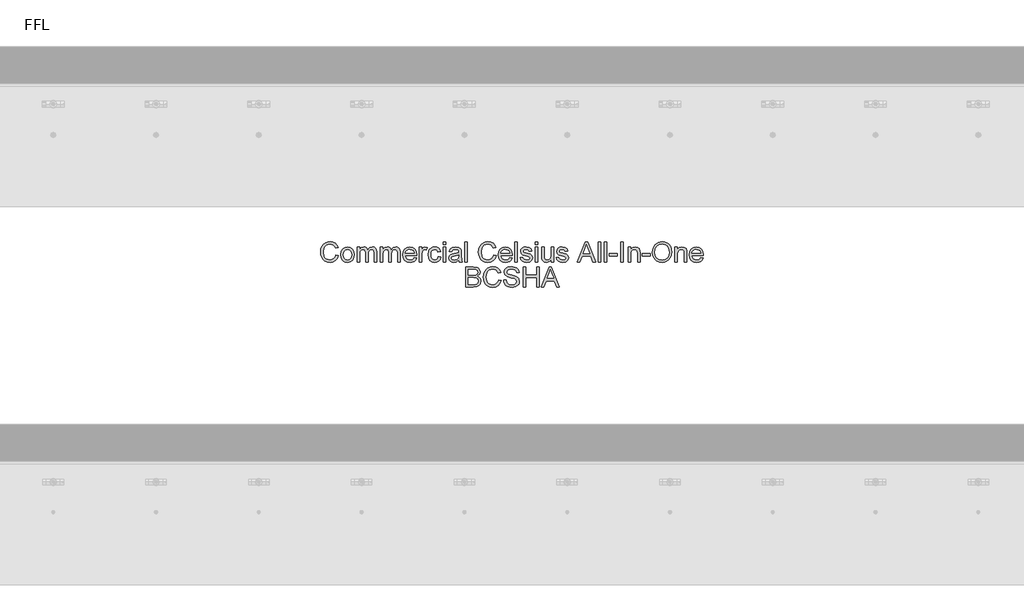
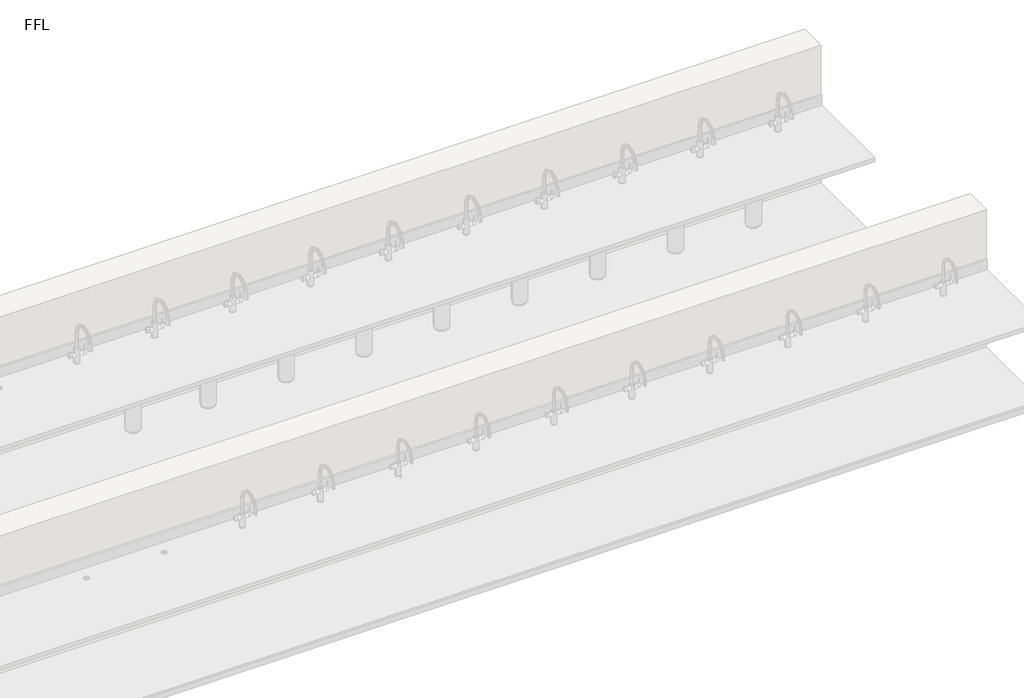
# One storey, part 9 of 9: 1 proxy.
"""IFC4 building model written with IfcOpenShell, lengths in millimetres."""

import ifcopenshell
import ifcopenshell.guid

model = None  # the IFC model being written
_history = None  # IfcOwnerHistory: only IFC2X3 demands one
_inside = {}  # id of a spatial element -> (the spatial element, [elements in it])
_under = {}  # id of a project, library or spatial element -> (it, [spatial elements below it])
_declared = {}  # id of a project -> (the project, [libraries it declares])
_typed = {}  # id of a type object -> (the type object, [elements of that type])
_made_of = {}  # id of a material, layer set ... -> (it, [elements and type objects made of it])


def new_model(schema):
    """Start an empty IFC model of exactly this schema.

    Asked for "IFC4X3", IfcOpenShell would pick the latest addendum, in which some entities
    have other attributes; the version numbers below select the first issue.
    IFC2X3 requires an IfcOwnerHistory on every rooted entity: one is made here for all.
    """
    global model, _history
    if schema == "IFC4X3":
        model = ifcopenshell.file(schema_version=(4, 3, 0, 0))
    else:
        model = ifcopenshell.file(schema=schema)
    _inside.clear()
    _under.clear()
    _declared.clear()
    _typed.clear()
    _made_of.clear()
    _history = None
    if model.schema == "IFC2X3":
        org = make("IfcOrganization", Name="unknown")
        user = make(
            "IfcPersonAndOrganization",
            ThePerson=make("IfcPerson", FamilyName="unknown"),
            TheOrganization=org,
        )
        app = make(
            "IfcApplication",
            ApplicationDeveloper=org,
            Version="unknown",
            ApplicationFullName="unknown",
            ApplicationIdentifier="unknown",
        )
        _history = make(
            "IfcOwnerHistory",
            OwningUser=user,
            OwningApplication=app,
            ChangeAction="ADDED",
            CreationDate=0,
        )
    return model


def make(cls, **values):
    """One entity of the class cls with the attributes given. An attribute that is None is left unset."""
    return model.create_entity(
        cls, **{name: value for name, value in values.items() if value is not None}
    )


def rooted(cls, **values):
    """An entity with a GlobalId (a new one), such as an element, a storey or a relation."""
    return make(cls, GlobalId=ifcopenshell.guid.new(), OwnerHistory=_history, **values)


def si_unit(unit_type, name, prefix=None):
    """IfcSIUnit, for example si_unit("LENGTHUNIT", "METRE", prefix="MILLI")."""
    return make("IfcSIUnit", UnitType=unit_type, Prefix=prefix, Name=name)


def assignment(units):
    """IfcUnitAssignment: the units of a project."""
    return None if units is None else make("IfcUnitAssignment", Units=units)


def point(xyz):
    """IfcCartesianPoint."""
    return None if xyz is None else make("IfcCartesianPoint", Coordinates=xyz)


def direction(xyz):
    """IfcDirection."""
    return None if xyz is None else make("IfcDirection", DirectionRatios=xyz)


def frame(location, z_axis=None, x_axis=None):
    """IfcAxis2Placement3D, a coordinate frame: its origin and axes. An axis left out is left unset."""
    return make(
        "IfcAxis2Placement3D",
        Location=point(location),
        Axis=direction(z_axis),
        RefDirection=direction(x_axis),
    )


def origin():
    """The frame at (0, 0, 0) with its axes left unset."""
    return frame((0.0, 0.0, 0.0))


def origin_with_axes():
    """The frame at (0, 0, 0) with the z axis (0, 0, 1) and the x axis (1, 0, 0) written out."""
    return frame((0.0, 0.0, 0.0), z_axis=(0.0, 0.0, 1.0), x_axis=(1.0, 0.0, 0.0))


def place(relative_to, where):
    """IfcLocalPlacement: puts the frame where relative to a parent placement (None: the world)."""
    return make(
        "IfcLocalPlacement", PlacementRelTo=relative_to, RelativePlacement=where
    )


def context(
    kind, dimensions, precision=None, world=None, true_north=None, identifier=None
):
    """IfcGeometricRepresentationContext, for example the 3D "Model" context."""
    return make(
        "IfcGeometricRepresentationContext",
        ContextIdentifier=identifier,
        ContextType=kind,
        CoordinateSpaceDimension=dimensions,
        Precision=precision,
        WorldCoordinateSystem=world,
        TrueNorth=true_north,
    )


def project(units=None, contexts=None):
    """IfcProject with its units and contexts."""
    return rooted(
        "IfcProject",
        Name="project",
        RepresentationContexts=contexts,
        UnitsInContext=assignment(units),
    )


def spatial(cls, under=None, at=None, **own):
    """A site, building, storey or space (cls), placed at a placement, below another one or the project."""
    s = rooted(cls, ObjectPlacement=at, **own)
    if under is not None:
        _under.setdefault(under.id(), (under, []))[1].append(s)
    return s


def polyline(points):
    """IfcPolyline through the points."""
    return make("IfcPolyline", Points=[point(p) for p in points])


def outline(outer, holes=None, kind="AREA"):
    """IfcArbitraryClosedProfileDef: a profile drawn as a closed curve; with holes, ...WithVoids."""
    if holes is None:
        return make("IfcArbitraryClosedProfileDef", ProfileType=kind, OuterCurve=outer)
    return make(
        "IfcArbitraryProfileDefWithVoids",
        ProfileType=kind,
        OuterCurve=outer,
        InnerCurves=holes,
    )


def extrude(swept, where, along, depth):
    """IfcExtrudedAreaSolid: the profile swept, set in the frame where, extruded along a direction by depth."""
    return make(
        "IfcExtrudedAreaSolid",
        SweptArea=swept,
        Position=where,
        ExtrudedDirection=direction(along),
        Depth=depth,
    )


def shape(context_of_items, identifier, shape_type, items):
    """IfcShapeRepresentation: the items that make up one representation, for example the "Body"."""
    return make(
        "IfcShapeRepresentation",
        ContextOfItems=context_of_items,
        RepresentationIdentifier=identifier,
        RepresentationType=shape_type,
        Items=items,
    )


def made_of(thing, what):
    """Note that an element or type object is made of a material, layer set ...; save() writes the relation."""
    if what is not None:
        _made_of.setdefault(what.id(), (what, []))[1].append(thing)
    return thing


def element(
    cls,
    number,
    at=None,
    inside=None,
    cuts=None,
    type_object=None,
    material=None,
    context=None,
    identifier="Body",
    shape_type=None,
    held_by="IfcProductDefinitionShape",
    body=None,
    shapes=None,
    **own,
):
    """One element of the class cls, such as IfcWall. Its Tag is "e" and its number.

    at: its placement. inside: the storey or other place that contains it. cuts: it is an
    opening in that element (IfcRelVoidsElement). A single representation is given by context,
    identifier, shape_type and body (its items); several are given by shapes. held_by: the class
    of the entity that holds the representations. save() writes the other relations.
    """
    e = rooted(cls, Tag="e%d" % number, ObjectPlacement=at, **own)
    if body is not None:
        shapes = [shape(context, identifier, shape_type, body)]
    if shapes is not None:
        e.Representation = make(held_by, Representations=shapes)
    if inside is not None:
        _inside.setdefault(inside.id(), (inside, []))[1].append(e)
    if cuts is not None:
        rooted(
            "IfcRelVoidsElement", RelatingBuildingElement=cuts, RelatedOpeningElement=e
        )
    if type_object is not None:
        _typed.setdefault(type_object.id(), (type_object, []))[1].append(e)
    return made_of(e, material)


def aggregate(whole, parts):
    """IfcRelAggregates: a whole, such as a stair, and the parts it consists of."""
    return rooted("IfcRelAggregates", RelatingObject=whole, RelatedObjects=parts)


def save(model, path):
    """Write the relations noted so far, then the file.

    IfcRelAggregates (storeys below a building ...), IfcRelContainedInSpatialStructure (elements
    in a storey), IfcRelDefinesByType, IfcRelAssociatesMaterial and IfcRelDeclares: one each for
    every whole, place, type object, material and project.
    """
    for whole, parts in _under.values():
        aggregate(whole, parts)
    for where, things in _inside.values():
        rooted(
            "IfcRelContainedInSpatialStructure",
            RelatedElements=things,
            RelatingStructure=where,
        )
    for kind, things in _typed.values():
        rooted("IfcRelDefinesByType", RelatedObjects=things, RelatingType=kind)
    for what, things in _made_of.values():
        rooted("IfcRelAssociatesMaterial", RelatedObjects=things, RelatingMaterial=what)
    for by, libraries in _declared.values():
        rooted("IfcRelDeclares", RelatingContext=by, RelatedDefinitions=libraries)
    model.write(path)


model = new_model("IFC4")

# Units and contexts
model_context = context("Model", 3, world=origin())
ifc_project = project(units=[si_unit("LENGTHUNIT", "METRE", prefix="MILLI")], contexts=[model_context])

# Site, building, storey
site = spatial("IfcSite", under=ifc_project)
building = spatial("IfcBuilding", under=site)
storey = spatial("IfcBuildingStorey", under=building, Name="FFL", Elevation=0.0)

# Proxy
placement = place(None, origin())
element("IfcBuildingElementProxy", 1, Name="150mm Arial", ObjectType="150mm Arial", at=placement, inside=storey, context=model_context, shape_type="SweptSolid", body=[
    extrude(outline(polyline([(6342.1877841, 6596.3018309), (6360.6493225, 6591.5422155), (6352.1306927, 6570.0292948), (6338.7623033, 6554.3126482), (6321.2022071, 6544.698766), (6300.1084571, 6541.4941386), (6278.6946951, 6543.9190184), (6261.688986, 6551.1936578), (6248.6541302, 6563.065653), (6239.1529283, 6579.2826001), (6233.352147, 6598.3481049), (6231.4185533, 6618.7657732), (6233.6045509, 6640.3012299), (6240.1625437, 6658.8979847), (6250.7499836, 6673.9655929), (6265.0243225, 6684.9136097), (6281.9534091, 6691.5797756), (6300.5050917, 6693.8018309), (6320.7469788, 6690.9262299), (6337.4822552, 6682.299427), (6350.1880845, 6668.4532732), (6358.3416302, 6649.9196193), (6339.8800917, 6645.5205809), (6333.4798514, 6658.9836217), (6324.735861, 6668.2188982), (6313.5399475, 6673.5599439), (6299.7839379, 6675.3402924), (6283.9275677, 6673.3661338), (6270.9017264, 6667.4436578), (6261.0174115, 6658.1948597), (6254.5856206, 6646.2417347), (6249.8800917, 6618.8018309), (6255.4510052, 6586.9989463), (6262.5723994, 6575.1224439), (6272.7947552, 6566.6804367), (6285.0498634, 6561.6368669), (6298.2695148, 6559.955677), (6313.6796711, 6562.2453405), (6326.5207167, 6569.1143309), (6336.2157288, 6580.4905328), (6342.1877841, 6596.3018309)])), origin_with_axes(), (0.0, 0.0, 1.0), 5.0),
    extrude(outline(polyline([(6379.110861, 6598.0326001), (6383.1042504, 6624.1834415), (6395.0844187, 6642.5638501), (6409.8861014, 6651.5692588), (6427.6084571, 6654.5710617), (6447.0029884, 6650.9157131), (6462.4942744, 6639.9496674), (6472.649022, 6622.5383092), (6476.0339379, 6599.5470232), (6474.5375437, 6580.8961818), (6470.048361, 6566.6984655), (6462.697099, 6556.0659535), (6452.6144667, 6548.1107251), (6440.6388057, 6543.1482852), (6427.6084571, 6541.4941386), (6407.9795509, 6545.1359655), (6392.5062937, 6556.0614463), (6382.4597191, 6573.8378886), (6379.110861, 6598.0326001)]), holes=[polyline([(6397.5723994, 6598.0686578), (6399.7088177, 6581.3604246), (6406.1180725, 6569.456879), (6415.7635052, 6562.3309775), (6427.6084571, 6559.955677), (6439.3993225, 6562.3444992), (6449.0267264, 6569.5109655), (6455.4359812, 6581.5722636), (6457.5723994, 6598.6455809), (6455.4224595, 6614.8670352), (6448.9726398, 6626.6083213), (6439.3317143, 6633.7342227), (6427.6084571, 6636.1095232), (6415.7635052, 6633.7432371), (6406.1180725, 6626.644379), (6399.7088177, 6614.7678766), (6397.5723994, 6598.0686578)])]), origin_with_axes(), (0.0, 0.0, 1.0), 5.0),
    extrude(outline(polyline([(6496.8031687, 6543.8018309), (6496.8031687, 6652.2633693), (6515.2647071, 6652.2633693), (6515.2647071, 6634.4148117), (6527.9570148, 6649.0362059), (6546.0219187, 6654.5710617), (6556.2893466, 6653.1603044), (6564.5195148, 6648.9280328), (6574.6877841, 6633.1167347), (6589.0928321, 6649.2074799), (6607.2839379, 6654.5710617), (6621.1616422, 6652.3399919), (6631.4245629, 6645.6467828), (6637.7662095, 6634.3111458), (6639.8800917, 6618.1527924), (6639.8800917, 6543.8018309), (6621.4185533, 6543.8018309), (6621.4185533, 6610.2201001), (6619.7058129, 6625.6347636), (6613.5038898, 6633.2249078), (6602.9570148, 6636.1095232), (6592.9555124, 6634.2615665), (6584.8019667, 6628.7176963), (6579.3797913, 6619.0993068), (6577.5723994, 6605.0277924), (6577.5723994, 6543.8018309), (6559.110861, 6543.8018309), (6559.110861, 6612.2753886), (6554.8380244, 6630.160004), (6549.1995028, 6634.6221434), (6540.829611, 6636.1095232), (6527.1637456, 6632.143177), (6518.0772071, 6620.5326001), (6515.2647071, 6598.5013501), (6515.2647071, 6543.8018309), (6496.8031687, 6543.8018309)])), origin_with_axes(), (0.0, 0.0, 1.0), 5.0),
    extrude(outline(polyline([(6667.5723994, 6543.8018309), (6667.5723994, 6652.2633693), (6686.0339379, 6652.2633693), (6686.0339379, 6634.4148117), (6698.7262456, 6649.0362059), (6716.7911494, 6654.5710617), (6727.0585773, 6653.1603044), (6735.2887456, 6648.9280328), (6745.4570148, 6633.1167347), (6759.8620629, 6649.2074799), (6778.0531687, 6654.5710617), (6791.930873, 6652.3399919), (6802.1937937, 6645.6467828), (6808.5354403, 6634.3111458), (6810.6493225, 6618.1527924), (6810.6493225, 6543.8018309), (6792.1877841, 6543.8018309), (6792.1877841, 6610.2201001), (6790.4750437, 6625.6347636), (6784.2731206, 6633.2249078), (6773.7262456, 6636.1095232), (6763.7247432, 6634.2615665), (6755.5711975, 6628.7176963), (6750.149022, 6619.0993068), (6748.3416302, 6605.0277924), (6748.3416302, 6543.8018309), (6729.8800917, 6543.8018309), (6729.8800917, 6612.2753886), (6725.6072552, 6630.160004), (6719.9687336, 6634.6221434), (6711.5988417, 6636.1095232), (6697.9329764, 6632.143177), (6688.8464379, 6620.5326001), (6686.0339379, 6598.5013501), (6686.0339379, 6543.8018309), (6667.5723994, 6543.8018309)])), origin_with_axes(), (0.0, 0.0, 1.0), 5.0),
    extrude(outline(polyline([(6914.2791302, 6576.1095232), (6932.3800917, 6573.8018309), (6925.8581566, 6560.1630088), (6915.4510052, 6549.9676963), (6901.3930124, 6543.612528), (6883.9185533, 6541.4941386), (6862.2568946, 6545.1494871), (6845.5892264, 6556.1155328), (6834.9612216, 6573.6801362), (6831.4185533, 6597.1311578), (6834.9972792, 6621.3709415), (6845.7334571, 6639.4989463), (6862.1757648, 6650.8030328), (6882.8728802, 6654.5710617), (6902.9254643, 6650.8120472), (6918.9486014, 6639.535004), (6929.4549115, 6621.4430568), (6932.9570148, 6597.2393309), (6932.8488417, 6592.2633693), (6849.8800917, 6592.2633693), (6853.0757047, 6578.4442588), (6860.4990821, 6568.285004), (6871.212724, 6562.0380088), (6884.2791302, 6559.955677), (6902.3800917, 6563.8138501), (6914.2791302, 6576.1095232)]), holes=[polyline([(6849.8800917, 6610.7249078), (6914.4954764, 6610.7249078), (6911.9984812, 6620.4785136), (6907.1036494, 6627.455677), (6896.3404283, 6633.9460617), (6882.8007648, 6636.1095232), (6870.3563538, 6634.3832612), (6860.0663898, 6629.2044751), (6852.9134451, 6621.1320592), (6849.8800917, 6610.7249078)])]), origin_with_axes(), (0.0, 0.0, 1.0), 5.0),
    extrude(outline(polyline([(6951.4185533, 6543.8018309), (6951.4185533, 6652.2633693), (6967.5723994, 6652.2633693), (6967.5723994, 6636.2176963), (6979.0387456, 6651.0013501), (6990.5772071, 6654.5710617), (7009.110861, 6648.8739463), (7002.9449956, 6632.3234655), (6989.9642264, 6636.1095232), (6979.5255244, 6632.4676963), (6972.8728802, 6622.3715424), (6969.8800917, 6600.8090424), (6969.8800917, 6543.8018309), (6951.4185533, 6543.8018309)])), origin_with_axes(), (0.0, 0.0, 1.0), 5.0),
    extrude(outline(polyline([(7089.8800917, 6583.0326001), (7108.3416302, 6580.7249078), (7103.1943946, 6564.3051362), (7093.5219187, 6551.8967828), (7080.2346591, 6544.0947996), (7064.2430725, 6541.4941386), (7044.6051518, 6545.1224439), (7029.2490821, 6556.0073597), (7019.337724, 6573.6711217), (7016.0339379, 6597.6359655), (7021.6769667, 6628.3030328), (7028.798361, 6639.8009294), (7038.876486, 6648.0085617), (7050.9332768, 6652.9304367), (7063.9906687, 6654.5710617), (7079.5901278, 6652.3174559), (7092.0615821, 6645.5566386), (7101.008397, 6634.6491867), (7106.0339379, 6619.955677), (7087.5723994, 6617.6479847), (7079.0086975, 6631.4761097), (7064.1348994, 6636.1095232), (7052.2043105, 6633.8288742), (7042.7346591, 6626.986927), (7036.555272, 6615.2140905), (7034.4954764, 6598.1407732), (7036.5101999, 6580.8375881), (7042.5543706, 6569.0241867), (7051.852748, 6562.2228044), (7063.6300917, 6559.955677), (7073.1898874, 6561.3709415), (7081.0279283, 6565.6167347), (7086.7295509, 6572.8012299), (7089.8800917, 6583.0326001)])), origin_with_axes(), (0.0, 0.0, 1.0), 5.0),
    extrude(outline(polyline([(7124.4954764, 6673.0326001), (7124.4954764, 6691.4941386), (7142.9570148, 6691.4941386), (7142.9570148, 6673.0326001), (7124.4954764, 6673.0326001)])), origin_with_axes(), (0.0, 0.0, 1.0), 5.0),
    extrude(outline(polyline([(7124.4954764, 6543.8018309), (7124.4954764, 6652.2633693), (7142.9570148, 6652.2633693), (7142.9570148, 6543.8018309), (7124.4954764, 6543.8018309)])), origin_with_axes(), (0.0, 0.0, 1.0), 5.0),
    extrude(outline(polyline([(7239.8800917, 6557.6479847), (7221.9774475, 6545.1359655), (7202.1998033, 6541.4941386), (7186.7716182, 6543.6846434), (7175.3909091, 6550.2561578), (7168.3731807, 6560.2351242), (7166.0339379, 6572.6479847), (7169.5675917, 6587.2513501), (7178.8524475, 6597.8523117), (7191.7791302, 6603.910004), (7207.7526879, 6606.6864463), (7239.7719187, 6613.0326001), (7239.8800917, 6617.143177), (7238.6090581, 6625.3823597), (7234.7959571, 6630.7729847), (7226.2683129, 6634.7753886), (7214.3873033, 6636.1095232), (7195.7094187, 6632.5578405), (7186.8031687, 6619.955677), (7168.3416302, 6622.2633693), (7176.3284091, 6640.2922155), (7192.4101398, 6650.8571193), (7216.767111, 6654.5710617), (7239.1409091, 6651.2898117), (7251.7791302, 6643.050629), (7257.4401879, 6630.5205809), (7258.3416302, 6614.3667347), (7258.3416302, 6591.3979847), (7259.2791302, 6559.3246674), (7262.9570148, 6543.8018309), (7244.4954764, 6543.8018309), (7239.8800917, 6557.6479847)]), holes=[polyline([(7239.8800917, 6594.5710617), (7210.0964379, 6588.910004), (7194.2130244, 6585.9172155), (7187.0195148, 6581.049427), (7184.4954764, 6573.9460617), (7189.9942744, 6563.9580809), (7206.1300917, 6559.955677), (7224.8079764, 6564.3727443), (7236.8512456, 6575.0638501), (7239.7719187, 6589.3426963), (7239.8800917, 6594.5710617)])]), origin_with_axes(), (0.0, 0.0, 1.0), 5.0),
    extrude(outline(polyline([(7283.7262456, 6543.8018309), (7283.7262456, 6691.4941386), (7302.1877841, 6691.4941386), (7302.1877841, 6543.8018309), (7283.7262456, 6543.8018309)])), origin_with_axes(), (0.0, 0.0, 1.0), 5.0),
    extrude(outline(polyline([(7493.7262456, 6596.3018309), (7512.1877841, 6591.5422155), (7503.6691542, 6570.0292948), (7490.3007648, 6554.3126482), (7472.7406687, 6544.698766), (7451.6469187, 6541.4941386), (7430.2331566, 6543.9190184), (7413.2274475, 6551.1936578), (7400.1925917, 6563.065653), (7390.6913898, 6579.2826001), (7384.8906086, 6598.3481049), (7382.9570148, 6618.7657732), (7385.1430124, 6640.3012299), (7391.7010052, 6658.8979847), (7402.2884451, 6673.9655929), (7416.5627841, 6684.9136097), (7433.4918706, 6691.5797756), (7452.0435533, 6693.8018309), (7472.2854403, 6690.9262299), (7489.0207167, 6682.299427), (7501.7265461, 6668.4532732), (7509.8800917, 6649.9196193), (7491.4185533, 6645.5205809), (7485.0183129, 6658.9836217), (7476.2743225, 6668.2188982), (7465.0784091, 6673.5599439), (7451.3223994, 6675.3402924), (7435.4660292, 6673.3661338), (7422.4401879, 6667.4436578), (7412.555873, 6658.1948597), (7406.1240821, 6646.2417347), (7401.4185533, 6618.8018309), (7406.9894667, 6586.9989463), (7414.110861, 6575.1224439), (7424.3332167, 6566.6804367), (7436.5883249, 6561.6368669), (7449.8079764, 6559.955677), (7465.2181326, 6562.2453405), (7478.0591783, 6569.1143309), (7487.7541903, 6580.4905328), (7493.7262456, 6596.3018309)])), origin_with_axes(), (0.0, 0.0, 1.0), 5.0),
    extrude(outline(polyline([(7611.2022071, 6576.1095232), (7629.3031687, 6573.8018309), (7622.7812336, 6560.1630088), (7612.3740821, 6549.9676963), (7598.3160893, 6543.612528), (7580.8416302, 6541.4941386), (7559.1799716, 6545.1494871), (7542.5123033, 6556.1155328), (7531.8842985, 6573.6801362), (7528.3416302, 6597.1311578), (7531.9203562, 6621.3709415), (7542.6565341, 6639.4989463), (7559.0988417, 6650.8030328), (7579.7959571, 6654.5710617), (7599.8485413, 6650.8120472), (7615.8716783, 6639.535004), (7626.3779884, 6621.4430568), (7629.8800917, 6597.2393309), (7629.7719187, 6592.2633693), (7546.8031687, 6592.2633693), (7549.9987816, 6578.4442588), (7557.4221591, 6568.285004), (7568.1358009, 6562.0380088), (7581.2022071, 6559.955677), (7599.3031687, 6563.8138501), (7611.2022071, 6576.1095232)]), holes=[polyline([(7546.8031687, 6610.7249078), (7611.4185533, 6610.7249078), (7608.9215581, 6620.4785136), (7604.0267264, 6627.455677), (7593.2635052, 6633.9460617), (7579.7238417, 6636.1095232), (7567.2794307, 6634.3832612), (7556.9894667, 6629.2044751), (7549.836522, 6621.1320592), (7546.8031687, 6610.7249078)])]), origin_with_axes(), (0.0, 0.0, 1.0), 5.0),
    extrude(outline(polyline([(7648.3416302, 6543.8018309), (7648.3416302, 6691.4941386), (7666.8031687, 6691.4941386), (7666.8031687, 6543.8018309), (7648.3416302, 6543.8018309)])), origin_with_axes(), (0.0, 0.0, 1.0), 5.0),
    extrude(outline(polyline([(7687.5723994, 6576.1095232), (7706.0339379, 6578.4172155), (7708.9455966, 6570.5205809), (7714.579611, 6564.7152924), (7734.1589379, 6559.955677), (7752.9810533, 6564.3186578), (7759.110861, 6574.5590424), (7752.9449956, 6582.8523117), (7733.9425917, 6588.1167347), (7706.142111, 6597.1491867), (7694.0086975, 6607.6960617), (7689.8800917, 6622.5878886), (7693.1973994, 6636.3438982), (7702.2478802, 6646.8547155), (7713.9846591, 6652.3174559), (7729.8680725, 6654.5710617), (7752.3320148, 6650.9472636), (7766.610861, 6641.1395713), (7772.9570148, 6624.5710617), (7754.4954764, 6622.2633693), (7747.5543706, 6632.4496674), (7731.3103802, 6636.1095232), (7713.642111, 6632.611927), (7708.3416302, 6624.4628886), (7710.5411494, 6619.0902924), (7717.4281687, 6615.0157732), (7733.329611, 6611.0854847), (7760.4269667, 6602.3955809), (7773.0111014, 6592.5518309), (7777.5723994, 6576.5061578), (7772.2178321, 6558.8378886), (7756.767111, 6546.019379), (7733.9065341, 6541.4941386), (7715.2917504, 6543.675629), (7701.7070148, 6550.2201001), (7692.6385052, 6561.0554367), (7687.5723994, 6576.1095232)])), origin_with_axes(), (0.0, 0.0, 1.0), 5.0),
    extrude(outline(polyline([(7798.3416302, 6543.8018309), (7798.3416302, 6652.2633693), (7816.8031687, 6652.2633693), (7816.8031687, 6543.8018309), (7798.3416302, 6543.8018309)])), origin_with_axes(), (0.0, 0.0, 1.0), 5.0),
    extrude(outline(polyline([(7798.3416302, 6673.0326001), (7798.3416302, 6691.4941386), (7816.8031687, 6691.4941386), (7816.8031687, 6673.0326001), (7798.3416302, 6673.0326001)])), origin_with_axes(), (0.0, 0.0, 1.0), 5.0),
    extrude(outline(polyline([(7913.7262456, 6543.8018309), (7913.7262456, 6562.4436578), (7899.267111, 6546.7315184), (7880.4089379, 6541.4941386), (7863.0471591, 6545.1720232), (7851.0760052, 6554.4027924), (7845.5772071, 6567.9965424), (7844.4954764, 6585.160004), (7844.4954764, 6652.2633693), (7862.9570148, 6652.2633693), (7862.9570148, 6593.8499078), (7864.0748033, 6575.0277924), (7871.376486, 6563.9761097), (7885.1324956, 6559.955677), (7900.5471591, 6564.066254), (7910.7334571, 6575.2621674), (7913.7262456, 6595.8330809), (7913.7262456, 6652.2633693), (7932.1877841, 6652.2633693), (7932.1877841, 6543.8018309), (7913.7262456, 6543.8018309)])), origin_with_axes(), (0.0, 0.0, 1.0), 5.0),
    extrude(outline(polyline([(7950.6493225, 6576.1095232), (7969.110861, 6578.4172155), (7972.0225196, 6570.5205809), (7977.6565341, 6564.7152924), (7997.235861, 6559.955677), (8016.0579764, 6564.3186578), (8022.1877841, 6574.5590424), (8016.0219187, 6582.8523117), (7997.0195148, 6588.1167347), (7969.2190341, 6597.1491867), (7957.0856206, 6607.6960617), (7952.9570148, 6622.5878886), (7956.2743225, 6636.3438982), (7965.3248033, 6646.8547155), (7977.0615821, 6652.3174559), (7992.9449956, 6654.5710617), (8015.4089379, 6650.9472636), (8029.6877841, 6641.1395713), (8036.0339379, 6624.5710617), (8017.5723994, 6622.2633693), (8010.6312937, 6632.4496674), (7994.3873033, 6636.1095232), (7976.7190341, 6632.611927), (7971.4185533, 6624.4628886), (7973.6180725, 6619.0902924), (7980.5050917, 6615.0157732), (7996.4065341, 6611.0854847), (8023.5038898, 6602.3955809), (8036.0880244, 6592.5518309), (8040.6493225, 6576.5061578), (8035.2947552, 6558.8378886), (8019.8440341, 6546.019379), (7996.9834571, 6541.4941386), (7978.3686735, 6543.675629), (7964.7839379, 6550.2201001), (7955.7154283, 6561.0554367), (7950.6493225, 6576.1095232)])), origin_with_axes(), (0.0, 0.0, 1.0), 5.0),
    extrude(outline(polyline([(8104.2190341, 6543.8018309), (8163.173361, 6691.4941386), (8178.8945148, 6691.4941386), (8237.8488417, 6543.8018309), (8218.3416302, 6543.8018309), (8201.4305725, 6589.955677), (8140.6012456, 6589.955677), (8123.7262456, 6543.8018309), (8104.2190341, 6543.8018309)]), holes=[polyline([(8147.3800917, 6608.4172155), (8194.6877841, 6608.4172155), (8181.3824956, 6644.7273117), (8171.0339379, 6673.0326001), (8161.8392264, 6647.9003886), (8147.3800917, 6608.4172155)])]), origin_with_axes(), (0.0, 0.0, 1.0), 5.0),
    extrude(outline(polyline([(8255.2647071, 6543.8018309), (8255.2647071, 6691.4941386), (8273.7262456, 6691.4941386), (8273.7262456, 6543.8018309), (8255.2647071, 6543.8018309)])), origin_with_axes(), (0.0, 0.0, 1.0), 5.0),
    extrude(outline(polyline([(8301.4185533, 6543.8018309), (8301.4185533, 6691.4941386), (8319.8800917, 6691.4941386), (8319.8800917, 6543.8018309), (8301.4185533, 6543.8018309)])), origin_with_axes(), (0.0, 0.0, 1.0), 5.0),
    extrude(outline(polyline([(8338.3416302, 6587.6479847), (8338.3416302, 6606.1095232), (8396.0339379, 6606.1095232), (8396.0339379, 6587.6479847), (8338.3416302, 6587.6479847)])), origin_with_axes(), (0.0, 0.0, 1.0), 5.0),
    extrude(outline(polyline([(8421.4185533, 6543.8018309), (8421.4185533, 6691.4941386), (8439.8800917, 6691.4941386), (8439.8800917, 6543.8018309), (8421.4185533, 6543.8018309)])), origin_with_axes(), (0.0, 0.0, 1.0), 5.0),
    extrude(outline(polyline([(8474.4954764, 6543.8018309), (8474.4954764, 6652.2633693), (8492.9570148, 6652.2633693), (8492.9570148, 6637.1191386), (8507.0736014, 6650.2080809), (8526.3464379, 6654.5710617), (8543.7803321, 6651.0554367), (8555.6793706, 6641.8246674), (8561.2142264, 6628.2489463), (8562.1877841, 6610.4003886), (8562.1877841, 6543.8018309), (8543.7262456, 6543.8018309), (8543.7262456, 6607.9124078), (8541.5988417, 6624.2465424), (8534.0808129, 6632.8823597), (8521.4065341, 6636.1095232), (8510.5937336, 6634.2976242), (8501.376486, 6628.861927), (8495.0618826, 6618.3601242), (8492.9570148, 6601.3499078), (8492.9570148, 6543.8018309), (8474.4954764, 6543.8018309)])), origin_with_axes(), (0.0, 0.0, 1.0), 5.0),
    extrude(outline(polyline([(8578.3416302, 6587.6479847), (8578.3416302, 6606.1095232), (8636.0339379, 6606.1095232), (8636.0339379, 6587.6479847), (8578.3416302, 6587.6479847)])), origin_with_axes(), (0.0, 0.0, 1.0), 5.0),
    extrude(outline(polyline([(8652.1877841, 6615.7008693), (8657.1096591, 6648.3601242), (8671.8752841, 6673.0686578), (8694.4203562, 6688.6185376), (8722.6805725, 6693.8018309), (8742.0525677, 6691.3679367), (8759.423361, 6684.066254), (8773.8464379, 6672.4106049), (8784.3752841, 6656.9148117), (8790.8115821, 6638.3270713), (8792.9570148, 6617.3955809), (8790.6989018, 6596.1846434), (8783.9245629, 6577.3354847), (8773.0080966, 6561.8126482), (8758.3236014, 6550.580677), (8741.1015461, 6543.7657732), (8722.5723994, 6541.4941386), (8702.9029283, 6544.0046554), (8685.4329764, 6551.5362059), (8671.0459571, 6563.4082011), (8660.6252841, 6578.940052), (8654.2971591, 6596.8111458), (8652.1877841, 6615.7008693)]), holes=[polyline([(8670.6493225, 6615.5205809), (8674.3407288, 6592.4166145), (8685.4149475, 6574.8114463), (8702.0600797, 6563.6696193), (8722.4642264, 6559.955677), (8743.165849, 6563.705677), (8759.8380244, 6574.955677), (8770.8311134, 6593.1017107), (8774.4954764, 6617.5398117), (8772.9269667, 6633.8829607), (8768.2214379, 6648.0085617), (8760.5005845, 6659.5605448), (8749.8861014, 6668.1828405), (8737.0811134, 6673.5509294), (8722.7887456, 6675.3402924), (8702.9299716, 6671.8922756), (8686.0459571, 6661.5482251), (8674.4984812, 6643.1452804), (8670.6493225, 6615.5205809)])]), origin_with_axes(), (0.0, 0.0, 1.0), 5.0),
    extrude(outline(polyline([(8816.0339379, 6543.8018309), (8816.0339379, 6652.2633693), (8834.4954764, 6652.2633693), (8834.4954764, 6637.1191386), (8848.6120629, 6650.2080809), (8867.8848994, 6654.5710617), (8885.3187937, 6651.0554367), (8897.2178321, 6641.8246674), (8902.7526879, 6628.2489463), (8903.7262456, 6610.4003886), (8903.7262456, 6543.8018309), (8885.2647071, 6543.8018309), (8885.2647071, 6607.9124078), (8883.1373033, 6624.2465424), (8875.6192744, 6632.8823597), (8862.9449956, 6636.1095232), (8852.1321951, 6634.2976242), (8842.9149475, 6628.861927), (8836.6003441, 6618.3601242), (8834.4954764, 6601.3499078), (8834.4954764, 6543.8018309), (8816.0339379, 6543.8018309)])), origin_with_axes(), (0.0, 0.0, 1.0), 5.0),
    extrude(outline(polyline([(9005.048361, 6576.1095232), (9023.1493225, 6573.8018309), (9016.6273874, 6560.1630088), (9006.220236, 6549.9676963), (8992.1622432, 6543.612528), (8974.6877841, 6541.4941386), (8953.0261254, 6545.1494871), (8936.3584571, 6556.1155328), (8925.7304523, 6573.6801362), (8922.1877841, 6597.1311578), (8925.76651, 6621.3709415), (8936.5026879, 6639.4989463), (8952.9449956, 6650.8030328), (8973.642111, 6654.5710617), (8993.6946951, 6650.8120472), (9009.7178321, 6639.535004), (9020.2241422, 6621.4430568), (9023.7262456, 6597.2393309), (9023.6180725, 6592.2633693), (8940.6493225, 6592.2633693), (8943.8449355, 6578.4442588), (8951.2683129, 6568.285004), (8961.9819547, 6562.0380088), (8975.048361, 6559.955677), (8993.1493225, 6563.8138501), (9005.048361, 6576.1095232)]), holes=[polyline([(8940.6493225, 6610.7249078), (9005.2647071, 6610.7249078), (9002.7677119, 6620.4785136), (8997.8728802, 6627.455677), (8987.1096591, 6633.9460617), (8973.5699956, 6636.1095232), (8961.1255845, 6634.3832612), (8950.8356206, 6629.2044751), (8943.6826759, 6621.1320592), (8940.6493225, 6610.7249078)])]), origin_with_axes(), (0.0, 0.0, 1.0), 5.0),
    extrude(outline(polyline([(7289.4954764, 6361.4941386), (7289.4954764, 6509.1864463), (7345.8536494, 6509.1864463), (7373.4558129, 6504.8414943), (7382.7316542, 6499.3291746), (7389.7538898, 6491.4821193), (7395.6493225, 6472.5878886), (7390.6913898, 6455.3342828), (7375.7094187, 6442.2633693), (7386.1706566, 6436.800629), (7393.9005244, 6428.4893309), (7398.6736615, 6417.8793549), (7400.2647071, 6405.5205809), (7395.9197552, 6385.6708213), (7385.1565341, 6371.5362059), (7369.0928321, 6364.0362059), (7345.4209571, 6361.4941386), (7289.4954764, 6361.4941386)]), holes=[polyline([(7307.9570148, 6449.1864463), (7341.6709571, 6449.1864463), (7361.3584571, 6450.7729847), (7373.2034091, 6457.6059174), (7377.1877841, 6469.6311578), (7373.4738417, 6481.674427), (7362.8368225, 6488.7958213), (7339.110861, 6490.7249078), (7307.9570148, 6490.7249078), (7307.9570148, 6449.1864463)]), polyline([(7307.9570148, 6379.955677), (7345.8175917, 6379.955677), (7359.5195148, 6380.6768309), (7371.1120629, 6384.6972636), (7378.7923514, 6392.9003886), (7381.8031687, 6405.3402924), (7378.2695148, 6419.691254), (7366.8211975, 6428.2549559), (7344.0147071, 6430.7249078), (7307.9570148, 6430.7249078), (7307.9570148, 6379.955677)])]), origin_with_axes(), (0.0, 0.0, 1.0), 5.0),
    extrude(outline(polyline([(7529.4954764, 6413.9941386), (7547.9570148, 6409.2345232), (7539.438385, 6387.7216025), (7526.0699956, 6372.0049559), (7508.5098994, 6362.3910737), (7487.4161494, 6359.1864463), (7466.0023874, 6361.6113261), (7448.9966783, 6368.8859655), (7435.9618225, 6380.7579607), (7426.4606206, 6396.9749078), (7420.6598393, 6416.0404126), (7418.7262456, 6436.4580809), (7420.9122432, 6457.9935376), (7427.470236, 6476.5902924), (7438.0576759, 6491.6579006), (7452.3320148, 6502.6059174), (7469.2611014, 6509.2720833), (7487.8127841, 6511.4941386), (7508.0546711, 6508.6185376), (7524.7899475, 6499.9917347), (7537.4957768, 6486.1455809), (7545.6493225, 6467.611927), (7527.1877841, 6463.2128886), (7520.7875437, 6476.6759294), (7512.0435533, 6485.9112059), (7500.8476398, 6491.2522516), (7487.0916302, 6493.0326001), (7471.23526, 6491.0584415), (7458.2094187, 6485.1359655), (7448.3251038, 6475.8871674), (7441.8933129, 6463.9340424), (7437.1877841, 6436.4941386), (7442.7586975, 6404.691254), (7449.8800917, 6392.8147516), (7460.1024475, 6384.3727443), (7472.3575557, 6379.3291746), (7485.5772071, 6377.6479847), (7500.9873634, 6379.9376482), (7513.8284091, 6386.8066386), (7523.5234211, 6398.1828405), (7529.4954764, 6413.9941386)])), origin_with_axes(), (0.0, 0.0, 1.0), 5.0),
    extrude(outline(polyline([(7566.4185533, 6412.2633693), (7584.8800917, 6412.2633693), (7590.829611, 6393.783802), (7605.360861, 6382.1011097), (7627.5002841, 6377.6479847), (7646.7911494, 6381.019379), (7659.2490821, 6390.2862059), (7663.3416302, 6402.6720232), (7660.2767264, 6414.1924559), (7647.7286494, 6422.5758693), (7620.8476398, 6429.6251482), (7591.9113417, 6438.7297155), (7576.2082167, 6452.4676963), (7571.0339379, 6470.8210617), (7572.633998, 6481.6338621), (7577.4341783, 6491.7164943), (7585.3082768, 6500.2621674), (7596.1300917, 6506.4640905), (7623.4978802, 6511.4941386), (7652.704611, 6506.2297155), (7663.9005244, 6499.7303165), (7672.1757648, 6490.7609655), (7677.4131446, 6479.8805568), (7679.4954764, 6467.6479847), (7661.0339379, 6467.6479847), (7657.6445148, 6478.6636097), (7650.5772071, 6486.6143309), (7639.5345389, 6491.4280328), (7624.2190341, 6493.0326001), (7608.5429523, 6491.4460617), (7597.7887456, 6486.6864463), (7591.5687937, 6479.6822395), (7589.4954764, 6471.361927), (7590.9648273, 6464.2675761), (7595.3728802, 6458.5614463), (7625.517111, 6448.2489463), (7658.1853802, 6438.9821193), (7668.7097191, 6432.284403), (7676.0519667, 6424.018177), (7681.8031687, 6403.1407732), (7680.149022, 6391.7600641), (7675.1865821, 6381.0554367), (7667.1186735, 6371.8426963), (7656.1481206, 6364.9376482), (7628.2214379, 6359.1864463), (7610.133998, 6360.736927), (7595.2466783, 6365.3883693), (7583.3882047, 6373.158802), (7574.3873033, 6384.066254), (7568.6090581, 6397.3535136), (7566.4185533, 6412.2633693)])), origin_with_axes(), (0.0, 0.0, 1.0), 5.0),
    extrude(outline(polyline([(7709.4954764, 6361.4941386), (7709.4954764, 6509.1864463), (7727.9570148, 6509.1864463), (7727.9570148, 6449.1864463), (7806.4185533, 6449.1864463), (7806.4185533, 6509.1864463), (7824.8800917, 6509.1864463), (7824.8800917, 6361.4941386), (7806.4185533, 6361.4941386), (7806.4185533, 6430.7249078), (7727.9570148, 6430.7249078), (7727.9570148, 6361.4941386), (7709.4954764, 6361.4941386)])), origin_with_axes(), (0.0, 0.0, 1.0), 5.0),
    extrude(outline(polyline([(7839.9882648, 6361.4941386), (7898.9425917, 6509.1864463), (7914.6637456, 6509.1864463), (7973.6180725, 6361.4941386), (7954.110861, 6361.4941386), (7937.1998033, 6407.6479847), (7876.3704764, 6407.6479847), (7859.4954764, 6361.4941386), (7839.9882648, 6361.4941386)]), holes=[polyline([(7883.1493225, 6426.1095232), (7930.4570148, 6426.1095232), (7917.1517264, 6462.4196193), (7906.8031687, 6490.7249078), (7897.6084571, 6465.5926963), (7883.1493225, 6426.1095232)])]), origin_with_axes(), (0.0, 0.0, 1.0), 5.0),
])

save(model, "model.ifc")
